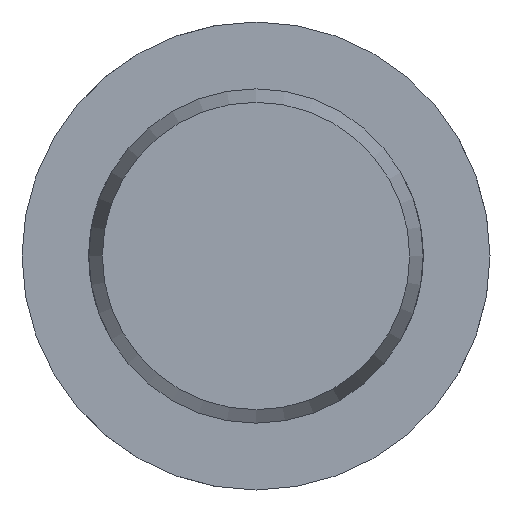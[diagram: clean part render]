
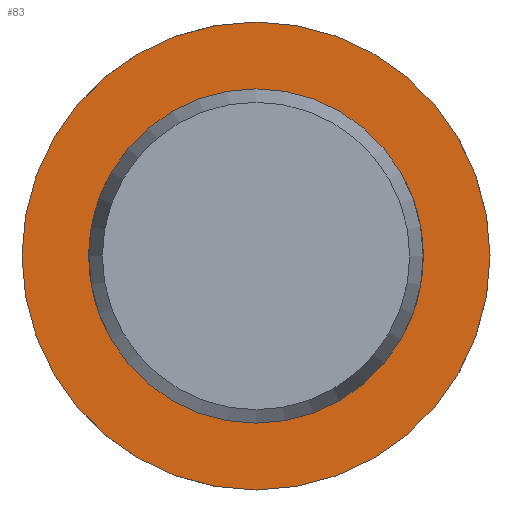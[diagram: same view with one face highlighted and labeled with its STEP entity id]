
A CAD part, left-side view. The second image highlights one B-rep face of the part: STEP entity #83.
In plain terms, the highlighted planar face has unit normal (-1, 0, 0).
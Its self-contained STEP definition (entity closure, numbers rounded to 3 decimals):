
#83 = ADVANCED_FACE( '', ( #129, #130 ), #131, .F. );
#129 = FACE_OUTER_BOUND( '', #208, .T. );
#130 = FACE_BOUND( '', #209, .T. );
#131 = PLANE( '', #210 );
#208 = EDGE_LOOP( '', ( #325 ) );
#209 = EDGE_LOOP( '', ( #326 ) );
#210 = AXIS2_PLACEMENT_3D( '', #327, #328, #329 );
#325 = ORIENTED_EDGE( '', *, *, #493, .F. );
#326 = ORIENTED_EDGE( '', *, *, #483, .T. );
#327 = CARTESIAN_POINT( '', ( 150.5, 10., 0. ) );
#328 = DIRECTION( '', ( 1., 0., 0. ) );
#329 = DIRECTION( '', ( 0., 0., -1. ) );
#483 = EDGE_CURVE( '', #554, #554, #555, .T. );
#493 = EDGE_CURVE( '', #572, #572, #573, .T. );
#554 = VERTEX_POINT( '', #759 );
#555 = CIRCLE( '', #760, 10. );
#572 = VERTEX_POINT( '', #942 );
#573 = CIRCLE( '', #943, 14. );
#759 = CARTESIAN_POINT( '', ( 150.5, 0., -10. ) );
#760 = AXIS2_PLACEMENT_3D( '', #1006, #1007, #1008 );
#942 = CARTESIAN_POINT( '', ( 150.5, 0., -14. ) );
#943 = AXIS2_PLACEMENT_3D( '', #1027, #1028, #1029 );
#1006 = CARTESIAN_POINT( '', ( 150.5, 0., 0. ) );
#1007 = DIRECTION( '', ( 1., 0., 0. ) );
#1008 = DIRECTION( '', ( 0., 0., -1. ) );
#1027 = CARTESIAN_POINT( '', ( 150.5, 0., 0. ) );
#1028 = DIRECTION( '', ( 1., 0., 0. ) );
#1029 = DIRECTION( '', ( 0., 0., -1. ) );
